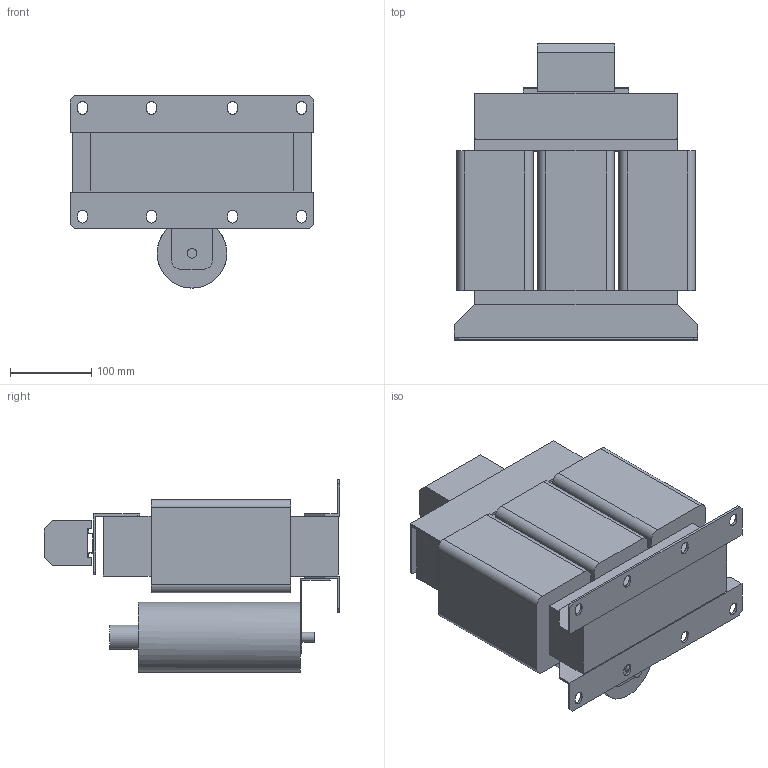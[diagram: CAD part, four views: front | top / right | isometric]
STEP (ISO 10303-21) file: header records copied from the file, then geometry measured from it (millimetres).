
FILE_DESCRIPTION(/* description */ (''),/* implementation_level */ '2;1');
FILE_NAME(/* name */ 'Sin-T4-115.stp',/* time_stamp */ '2025-03-10T15:20:27+04:00',/* author */ ('Лео'),/* organization */ (''),/* preprocessor_version */ 'ST-DEVELOPER v19.2',/* originating_system */ 'Autodesk Inventor 2024',/* authorisation */ '');
FILE_SCHEMA (('AUTOMOTIVE_DESIGN { 1 0 10303 214 3 1 1 }'));
Length unit declared in the file: millimetre
Products named in the file (1): Sin-T4-004
Bounding box: 300 x 365 x 237 mm (x, y, z)
Volume: 9442425.5 mm3; surface area: 708623.2 mm2
Topology: 11 solids, 11 shells, 155 faces, 391 edges, 260 vertices
Faces by surface type: plane 116, cylinder 39
Full cylindrical faces by diameter (mm): 12 x1, 30 x1, 86 x1
Entity records: 4694 total; most frequent: CARTESIAN_POINT 807, DIRECTION 783, ORIENTED_EDGE 782, EDGE_CURVE 391, LINE 311, VECTOR 311, VERTEX_POINT 260, AXIS2_PLACEMENT_3D 236
